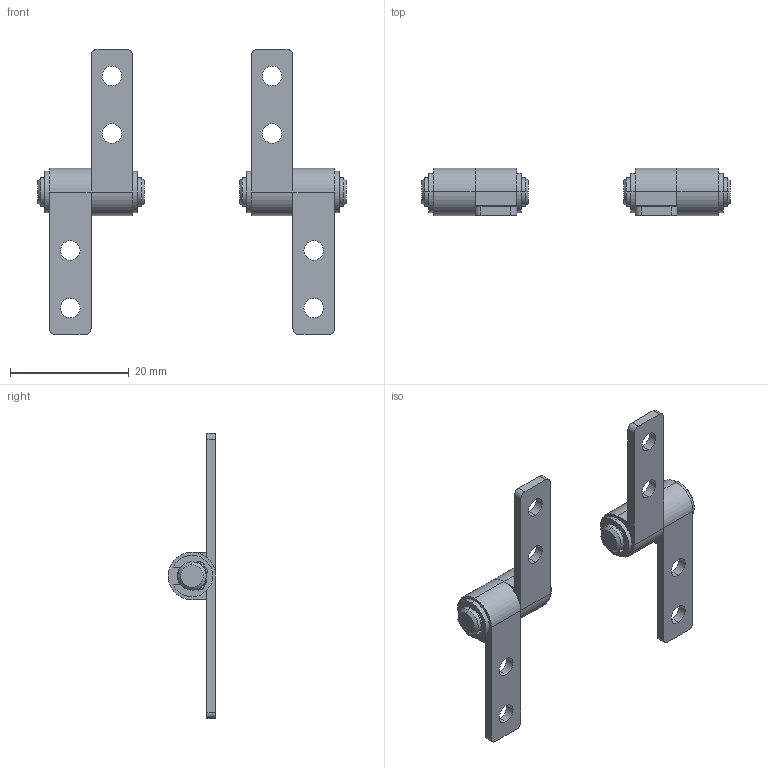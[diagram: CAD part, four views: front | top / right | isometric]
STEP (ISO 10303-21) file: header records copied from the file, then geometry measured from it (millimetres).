
FILE_DESCRIPTION (( 'STEP AP203' ), '1' );
FILE_NAME ('XG11-048.STEP', '2023-12-05T00:51:20', ( '' ), ( '' ), 'SwSTEP 2.0', 'SolidWorks 2020', '' );
FILE_SCHEMA (( 'CONFIG_CONTROL_DESIGN' ));
Length unit declared in the file: millimetre
Products named in the file (1): XG11-048
Bounding box: 52 x 8 x 48 mm (x, y, z)
Volume: 2323.7 mm3; surface area: 3795 mm2
Topology: 10 solids, 10 shells, 160 faces, 388 edges, 256 vertices
Faces by surface type: cylinder 84, plane 60, cone 8, bspline 8
Entity records: 5043 total; most frequent: CARTESIAN_POINT 1069, DIRECTION 854, ORIENTED_EDGE 776, EDGE_CURVE 388, AXIS2_PLACEMENT_3D 329, VERTEX_POINT 256, LINE 196, VECTOR 196
